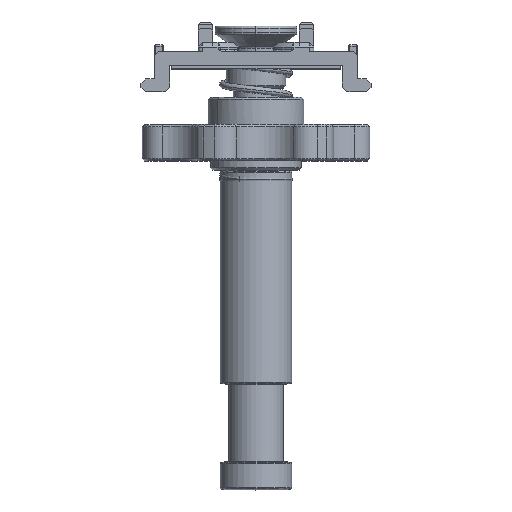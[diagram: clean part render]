
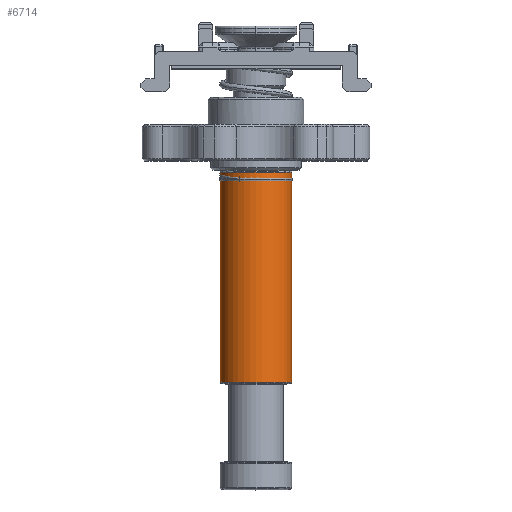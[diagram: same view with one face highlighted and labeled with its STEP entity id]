
A CAD part, top view. The second image highlights one B-rep face of the part: STEP entity #6714.
In plain terms, the highlighted cylindrical face has radius 7.9 mm (diameter 15.8 mm), a partial arc.
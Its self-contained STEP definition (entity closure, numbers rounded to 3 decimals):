
#989 = CARTESIAN_POINT ( 'NONE',  ( 0., -26.432, 0. ) ) ;
#1233 = CYLINDRICAL_SURFACE ( 'NONE', #14642, 7.9 ) ;
#1842 = LINE ( 'NONE', #16842, #17651 ) ;
#2383 = CARTESIAN_POINT ( 'NONE',  ( -7.9, -26.432, 0. ) ) ;
#2608 = VERTEX_POINT ( 'NONE', #15919 ) ;
#2848 = DIRECTION ( 'NONE',  ( 0., 1., 0. ) ) ;
#2992 = ORIENTED_EDGE ( 'NONE', *, *, #18040, .F. ) ;
#4067 = DIRECTION ( 'NONE',  ( 0., 1., 0. ) ) ;
#4451 = VERTEX_POINT ( 'NONE', #6510 ) ;
#4783 = DIRECTION ( 'NONE',  ( -1., 0., 0. ) ) ;
#5704 = VECTOR ( 'NONE', #2848, 1000. ) ;
#6241 = LINE ( 'NONE', #19247, #5704 ) ;
#6510 = CARTESIAN_POINT ( 'NONE',  ( 7.9, -26.432, 0. ) ) ;
#6668 = DIRECTION ( 'NONE',  ( 0., 1., 0. ) ) ;
#6714 = ADVANCED_FACE ( 'NONE', ( #9596 ), #1233, .T. ) ;
#6774 = EDGE_LOOP ( 'NONE', ( #17916, #16106, #14988, #2992 ) ) ;
#6963 = VERTEX_POINT ( 'NONE', #2383 ) ;
#7808 = CARTESIAN_POINT ( 'NONE',  ( 7.9, -72.568, 0. ) ) ;
#9036 = CIRCLE ( 'NONE', #20367, 7.9 ) ;
#9301 = DIRECTION ( 'NONE',  ( 0., 1., 0. ) ) ;
#9451 = CARTESIAN_POINT ( 'NONE',  ( 0., -96.22, 0. ) ) ;
#9596 = FACE_OUTER_BOUND ( 'NONE', #6774, .T. ) ;
#9843 = VERTEX_POINT ( 'NONE', #7808 ) ;
#12905 = DIRECTION ( 'NONE',  ( -1., 0., 0. ) ) ;
#14642 = AXIS2_PLACEMENT_3D ( 'NONE', #9451, #9301, #12905 ) ;
#14988 = ORIENTED_EDGE ( 'NONE', *, *, #17684, .T. ) ;
#15302 = AXIS2_PLACEMENT_3D ( 'NONE', #17671, #6668, #23107 ) ;
#15919 = CARTESIAN_POINT ( 'NONE',  ( -7.9, -72.568, 0. ) ) ;
#16106 = ORIENTED_EDGE ( 'NONE', *, *, #22388, .T. ) ;
#16842 = CARTESIAN_POINT ( 'NONE',  ( -7.9, -96.22, 0. ) ) ;
#17651 = VECTOR ( 'NONE', #4067, 1000. ) ;
#17671 = CARTESIAN_POINT ( 'NONE',  ( 0., -72.568, 0. ) ) ;
#17684 = EDGE_CURVE ( 'NONE', #4451, #6963, #9036, .T. ) ;
#17916 = ORIENTED_EDGE ( 'NONE', *, *, #20690, .T. ) ;
#18040 = EDGE_CURVE ( 'NONE', #2608, #6963, #1842, .T. ) ;
#19247 = CARTESIAN_POINT ( 'NONE',  ( 7.9, -96.22, 0. ) ) ;
#20367 = AXIS2_PLACEMENT_3D ( 'NONE', #989, #23162, #4783 ) ;
#20430 = CIRCLE ( 'NONE', #15302, 7.9 ) ;
#20690 = EDGE_CURVE ( 'NONE', #2608, #9843, #20430, .T. ) ;
#22388 = EDGE_CURVE ( 'NONE', #9843, #4451, #6241, .T. ) ;
#23107 = DIRECTION ( 'NONE',  ( 1., 0., 0. ) ) ;
#23162 = DIRECTION ( 'NONE',  ( 0., -1., 0. ) ) ;
